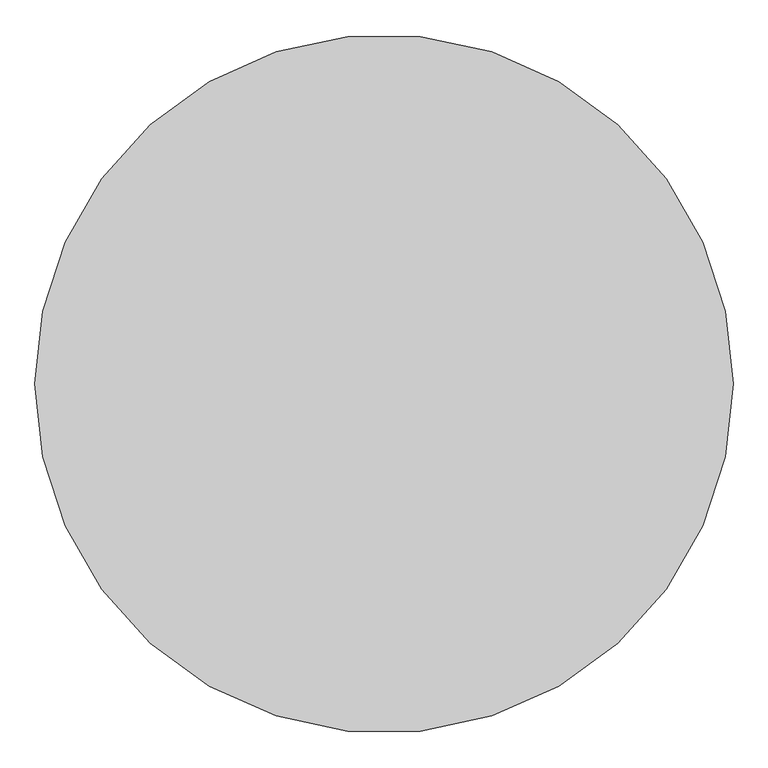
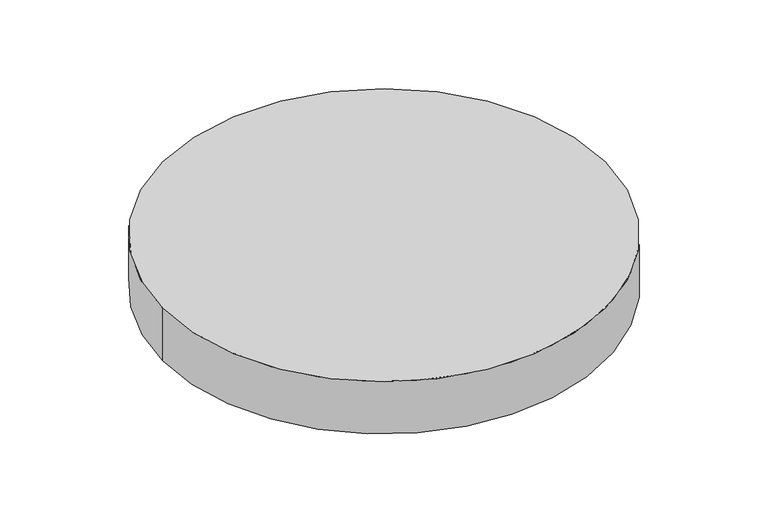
"""IFC4 building model written with IfcOpenShell, lengths in millimetres: proxy geometry, 公制常规模型 : 公制常规模型."""

from ifc_helpers import new_model, si_unit, point, origin, origin_with_axes, origin_2d, place, context, project, spatial, circle_curve, trimmed, segment, composite_curve, outline, extrude, source, transform, mapped, element, save


def generic_models_96fdaab5(model_context):
    return source(origin(), model_context, "Body", "SweptSolid", [
        extrude(outline(composite_curve([segment(trimmed(circle_curve(origin_2d(), 1000.0), [point((-1000.0, 0.0))], [point((1000.0, 0.0))], False, "CARTESIAN"), True, "CONTINUOUS"), segment(trimmed(circle_curve(origin_2d(), 1000.0), [point((1000.0, 0.0))], [point((-1000.0, 0.0))], False, "CARTESIAN"), True, "CONTINUOUS")], self_intersect=False)), origin_with_axes(), (0.0, 0.0, 1.0), 250.0),
    ])


if __name__ == "__main__":
    model = new_model("IFC4")
    model_context = context("Model", 3, world=origin())
    ifc_project = project(units=[si_unit("LENGTHUNIT", "METRE", prefix="MILLI")], contexts=[model_context])
    site = spatial("IfcSite", under=ifc_project)
    building = spatial("IfcBuilding", under=site)
    placement = place(None, origin())
    generic_models_shape = generic_models_96fdaab5(model_context)
    element("IfcBuildingElementProxy", 1, Name="公制常规模型 : 公制常规模型", ObjectType="公制常规模型 : 公制常规模型", at=placement, inside=building, context=model_context, shape_type="MappedRepresentation", body=[
        mapped(generic_models_shape, transform((0.0, 0.0, 0.0), x_axis=(1.0, 0.0, 0.0), y_axis=(0.0, 1.0, 0.0), z_axis=(0.0, 0.0, 1.0))),
    ])
    save(model, "model.ifc")
